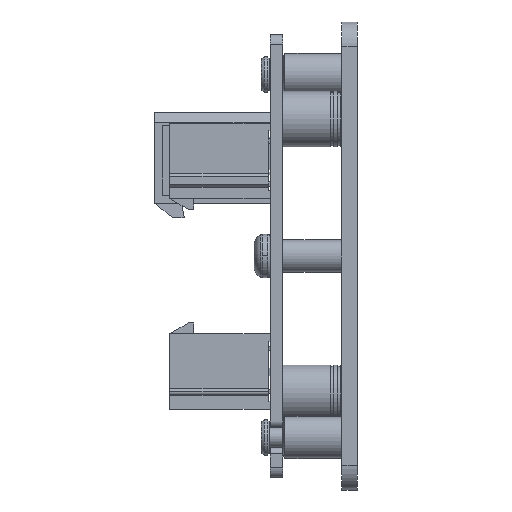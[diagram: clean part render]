
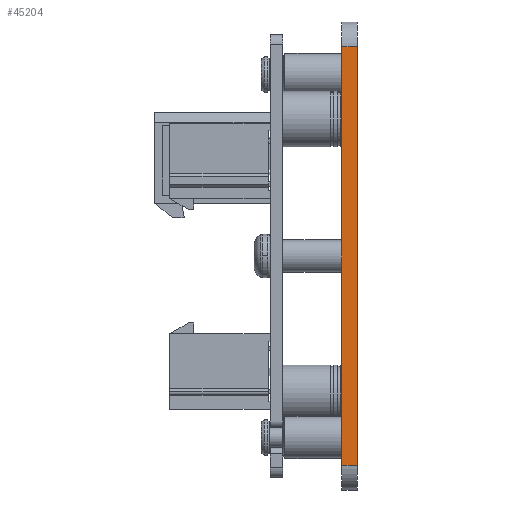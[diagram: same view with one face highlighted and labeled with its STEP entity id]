
A CAD part, left-side view. The second image highlights one B-rep face of the part: STEP entity #45204.
In plain terms, the highlighted planar face has unit normal (-1, 0, 0).
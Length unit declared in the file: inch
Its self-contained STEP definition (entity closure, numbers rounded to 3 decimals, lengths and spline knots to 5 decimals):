
#607 = FACE_OUTER_BOUND ( 'NONE', #55851, .T. ) ;
#1774 = DIRECTION ( 'NONE',  ( 0., 0., 1. ) ) ;
#2163 = DIRECTION ( 'NONE',  ( 0., 0., 1. ) ) ;
#2639 = ORIENTED_EDGE ( 'NONE', *, *, #49447, .T. ) ;
#4271 = CARTESIAN_POINT ( 'NONE',  ( -0.86423, 1.66263, 1.81082 ) ) ;
#6508 = LINE ( 'NONE', #25807, #32155 ) ;
#9803 = PLANE ( 'NONE',  #47084 ) ;
#9911 = CARTESIAN_POINT ( 'NONE',  ( -0.86423, 1.74137, 3.91082 ) ) ;
#11501 = EDGE_CURVE ( 'NONE', #21823, #25981, #12436, .T. ) ;
#11975 = DIRECTION ( 'NONE',  ( -1., 0., 0. ) ) ;
#12436 = LINE ( 'NONE', #41393, #20240 ) ;
#16490 = LINE ( 'NONE', #54059, #44449 ) ;
#20240 = VECTOR ( 'NONE', #22198, 39.37008 ) ;
#21823 = VERTEX_POINT ( 'NONE', #58574 ) ;
#22198 = DIRECTION ( 'NONE',  ( 0., 0., 1. ) ) ;
#25807 = CARTESIAN_POINT ( 'NONE',  ( -0.86423, 1.66263, 4.03582 ) ) ;
#25981 = VERTEX_POINT ( 'NONE', #9911 ) ;
#27149 = CARTESIAN_POINT ( 'NONE',  ( -0.86423, 1.66263, 4.03582 ) ) ;
#28593 = CARTESIAN_POINT ( 'NONE',  ( -0.86423, 1.66263, 3.91082 ) ) ;
#30171 = DIRECTION ( 'NONE',  ( 0., -1., 0. ) ) ;
#32155 = VECTOR ( 'NONE', #1774, 39.37008 ) ;
#37386 = VERTEX_POINT ( 'NONE', #28593 ) ;
#38938 = CARTESIAN_POINT ( 'NONE',  ( -0.86423, 1.66263, 1.81082 ) ) ;
#40738 = DIRECTION ( 'NONE',  ( 0., 1., 0. ) ) ;
#41393 = CARTESIAN_POINT ( 'NONE',  ( -0.86423, 1.74137, 4.03582 ) ) ;
#44449 = VECTOR ( 'NONE', #40738, 39.37008 ) ;
#45204 = ADVANCED_FACE ( 'NONE', ( #607 ), #9803, .T. ) ;
#47084 = AXIS2_PLACEMENT_3D ( 'NONE', #27149, #11975, #2163 ) ;
#49447 = EDGE_CURVE ( 'NONE', #21823, #53712, #53516, .T. ) ;
#50572 = ORIENTED_EDGE ( 'NONE', *, *, #51971, .T. ) ;
#51971 = EDGE_CURVE ( 'NONE', #53712, #37386, #6508, .T. ) ;
#52923 = EDGE_CURVE ( 'NONE', #37386, #25981, #16490, .T. ) ;
#53516 = LINE ( 'NONE', #38938, #62146 ) ;
#53712 = VERTEX_POINT ( 'NONE', #4271 ) ;
#54059 = CARTESIAN_POINT ( 'NONE',  ( -0.86423, 1.66263, 3.91082 ) ) ;
#55316 = ORIENTED_EDGE ( 'NONE', *, *, #52923, .T. ) ;
#55851 = EDGE_LOOP ( 'NONE', ( #50572, #55316, #59422, #2639 ) ) ;
#58574 = CARTESIAN_POINT ( 'NONE',  ( -0.86423, 1.74137, 1.81082 ) ) ;
#59422 = ORIENTED_EDGE ( 'NONE', *, *, #11501, .F. ) ;
#62146 = VECTOR ( 'NONE', #30171, 39.37008 ) ;
